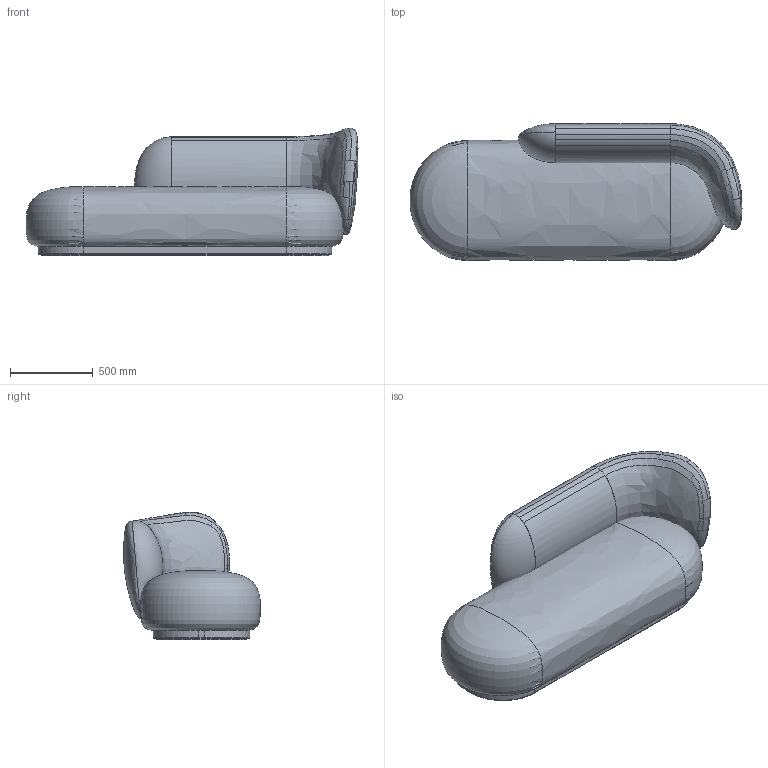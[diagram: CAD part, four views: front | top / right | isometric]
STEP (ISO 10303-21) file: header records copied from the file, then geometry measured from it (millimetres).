
FILE_DESCRIPTION(/* description */ (''),/* implementation_level */ '2;1');
FILE_NAME(/* name */ 'RZ7N34~7',/* time_stamp */ '2019-10-21T15:07:28+02:00',/* author */ (''),/* organization */ (''),/* preprocessor_version */ 'ST-DEVELOPER v16.5',/* originating_system */ '',/* authorisation */ '');
FILE_SCHEMA (('AUTOMOTIVE_DESIGN'));
Length unit declared in the file: millimetre
Products named in the file (1): Document
Bounding box: 2012.09 x 830.35 x 773.03 mm (x, y, z)
Volume: 92105840.7 mm3; surface area: 9211513.8 mm2
Topology: 3 solids, 11 shells, 402 faces, 1162 edges, 758 vertices
Faces by surface type: bspline 368, plane 34
Entity records: 124078 total; most frequent: CARTESIAN_POINT 117487, ORIENTED_EDGE 2223, EDGE_CURVE 1146, B_SPLINE_CURVE_WITH_KNOTS 863, VERTEX_POINT 754, EDGE_LOOP 452, ADVANCED_FACE 402, FACE_OUTER_BOUND 402
